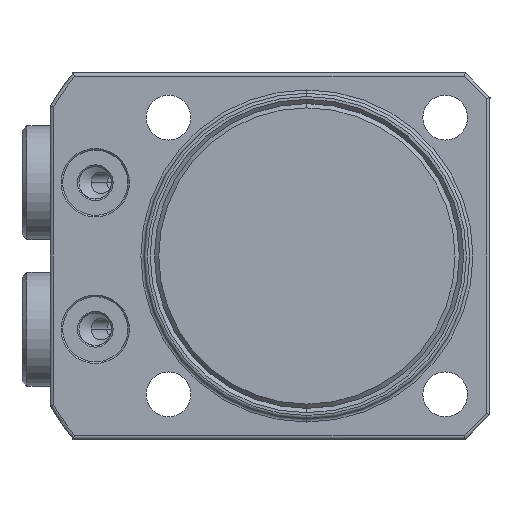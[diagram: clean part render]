
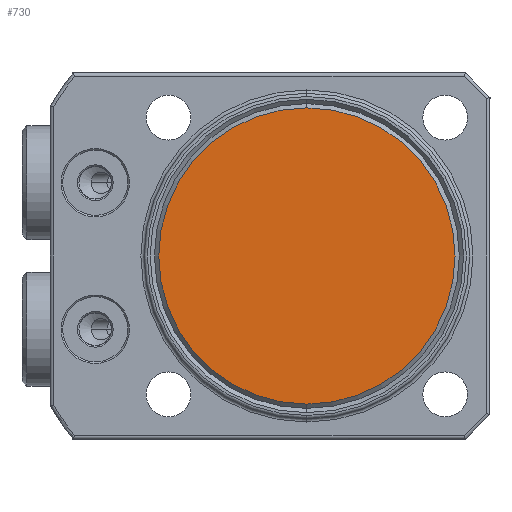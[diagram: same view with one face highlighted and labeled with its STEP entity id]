
A CAD part, front view. The second image highlights one B-rep face of the part: STEP entity #730.
In plain terms, the highlighted planar face has unit normal (0, -1, 0) as drawn and (1, 0, 0) by its records, which use the part's own axes.
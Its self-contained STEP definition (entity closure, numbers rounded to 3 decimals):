
#477=PLANE('',#2968);
#730=ADVANCED_FACE('',(#911),#477,.T.);
#911=FACE_OUTER_BOUND('',#1043,.T.);
#1043=EDGE_LOOP('',(#1609,#1610));
#1609=ORIENTED_EDGE('',*,*,#2390,.F.);
#1610=ORIENTED_EDGE('',*,*,#2509,.F.);
#2171=VERTEX_POINT('',#3983);
#2172=VERTEX_POINT('',#3984);
#2390=EDGE_CURVE('',#2171,#2172,#2731,.T.);
#2509=EDGE_CURVE('',#2172,#2171,#2777,.T.);
#2731=CIRCLE('',#2893,18.2);
#2777=CIRCLE('',#2967,18.2);
#2893=AXIS2_PLACEMENT_3D('',#3982,#3235,#3236);
#2967=AXIS2_PLACEMENT_3D('',#4428,#3435,#3436);
#2968=AXIS2_PLACEMENT_3D('',#4429,#3437,#3438);
#3235=DIRECTION('',(-1.,0.,0.));
#3236=DIRECTION('',(0.,0.,1.));
#3435=DIRECTION('',(-1.,0.,0.));
#3436=DIRECTION('',(0.,0.,1.));
#3437=DIRECTION('',(1.,0.,0.));
#3438=DIRECTION('',(0.,0.,1.));
#3982=CARTESIAN_POINT('',(46.5,0.,0.));
#3983=CARTESIAN_POINT('',(46.5,0.,18.2));
#3984=CARTESIAN_POINT('',(46.5,0.,-18.2));
#4428=CARTESIAN_POINT('',(46.5,0.,0.));
#4429=CARTESIAN_POINT('',(46.5,0.,0.));
